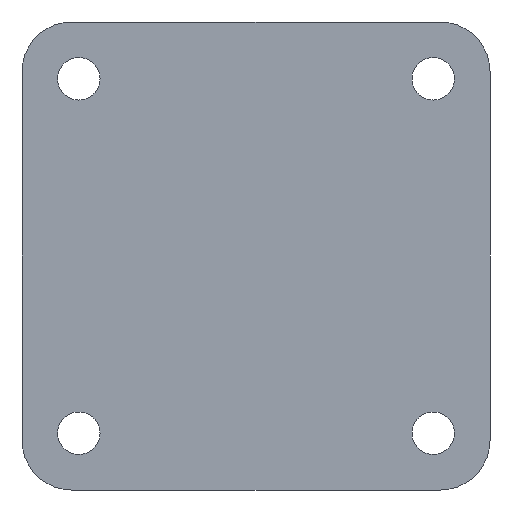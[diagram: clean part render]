
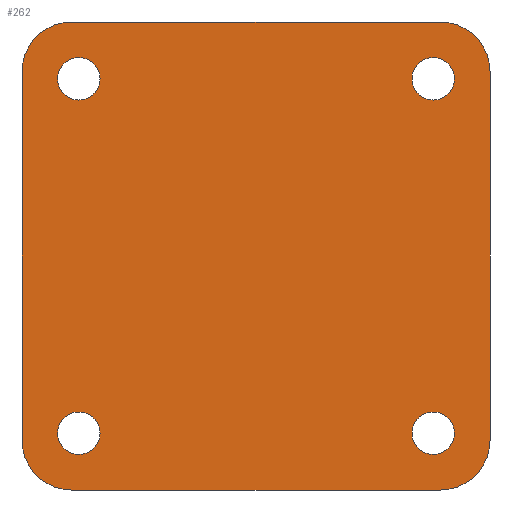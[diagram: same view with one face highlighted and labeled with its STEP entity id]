
A CAD part, left-side view. The second image highlights one B-rep face of the part: STEP entity #262.
In plain terms, the highlighted planar face has unit normal (-1, 0, 0).
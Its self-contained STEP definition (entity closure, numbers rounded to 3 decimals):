
#20=PLANE('',#294);
#25=LINE('',#408,#41);
#29=LINE('',#420,#45);
#33=LINE('',#432,#49);
#36=LINE('',#441,#52);
#41=VECTOR('',#333,10.);
#45=VECTOR('',#345,10.);
#49=VECTOR('',#357,10.);
#52=VECTOR('',#368,10.);
#61=FACE_BOUND('',#101,.T.);
#62=FACE_BOUND('',#102,.T.);
#63=FACE_BOUND('',#103,.T.);
#64=FACE_BOUND('',#104,.T.);
#78=FACE_OUTER_BOUND('',#100,.T.);
#100=EDGE_LOOP('',(#229,#230,#231,#232,#233,#234,#235,#236));
#101=EDGE_LOOP('',(#237));
#102=EDGE_LOOP('',(#238));
#103=EDGE_LOOP('',(#239));
#104=EDGE_LOOP('',(#240));
#106=CIRCLE('',#267,3.);
#108=CIRCLE('',#270,3.);
#110=CIRCLE('',#273,3.);
#112=CIRCLE('',#276,3.);
#114=CIRCLE('',#279,7.);
#116=CIRCLE('',#283,7.);
#118=CIRCLE('',#287,7.);
#120=CIRCLE('',#291,7.);
#122=VERTEX_POINT('',#377);
#124=VERTEX_POINT('',#382);
#126=VERTEX_POINT('',#387);
#128=VERTEX_POINT('',#392);
#131=VERTEX_POINT('',#398);
#132=VERTEX_POINT('',#400);
#134=VERTEX_POINT('',#406);
#136=VERTEX_POINT('',#412);
#138=VERTEX_POINT('',#418);
#140=VERTEX_POINT('',#424);
#142=VERTEX_POINT('',#430);
#144=VERTEX_POINT('',#436);
#146=EDGE_CURVE('',#122,#122,#106,.T.);
#148=EDGE_CURVE('',#124,#124,#108,.T.);
#150=EDGE_CURVE('',#126,#126,#110,.T.);
#152=EDGE_CURVE('',#128,#128,#112,.T.);
#155=EDGE_CURVE('',#132,#131,#114,.T.);
#159=EDGE_CURVE('',#131,#134,#25,.T.);
#162=EDGE_CURVE('',#134,#136,#116,.T.);
#165=EDGE_CURVE('',#136,#138,#29,.T.);
#168=EDGE_CURVE('',#138,#140,#118,.T.);
#171=EDGE_CURVE('',#140,#142,#33,.T.);
#174=EDGE_CURVE('',#142,#144,#120,.T.);
#176=EDGE_CURVE('',#144,#132,#36,.T.);
#229=ORIENTED_EDGE('',*,*,#176,.T.);
#230=ORIENTED_EDGE('',*,*,#155,.T.);
#231=ORIENTED_EDGE('',*,*,#159,.T.);
#232=ORIENTED_EDGE('',*,*,#162,.T.);
#233=ORIENTED_EDGE('',*,*,#165,.T.);
#234=ORIENTED_EDGE('',*,*,#168,.T.);
#235=ORIENTED_EDGE('',*,*,#171,.T.);
#236=ORIENTED_EDGE('',*,*,#174,.T.);
#237=ORIENTED_EDGE('',*,*,#146,.T.);
#238=ORIENTED_EDGE('',*,*,#148,.T.);
#239=ORIENTED_EDGE('',*,*,#150,.T.);
#240=ORIENTED_EDGE('',*,*,#152,.T.);
#262=ADVANCED_FACE('',(#78,#61,#62,#63,#64),#20,.F.);
#267=AXIS2_PLACEMENT_3D('',#378,#301,#302);
#270=AXIS2_PLACEMENT_3D('',#383,#307,#308);
#273=AXIS2_PLACEMENT_3D('',#388,#313,#314);
#276=AXIS2_PLACEMENT_3D('',#393,#319,#320);
#279=AXIS2_PLACEMENT_3D('',#401,#326,#327);
#283=AXIS2_PLACEMENT_3D('',#414,#339,#340);
#287=AXIS2_PLACEMENT_3D('',#426,#351,#352);
#291=AXIS2_PLACEMENT_3D('',#438,#363,#364);
#294=AXIS2_PLACEMENT_3D('',#443,#371,#372);
#301=DIRECTION('center_axis',(1.,0.,0.));
#302=DIRECTION('ref_axis',(0.,-1.,0.));
#307=DIRECTION('center_axis',(1.,0.,0.));
#308=DIRECTION('ref_axis',(0.,-1.,0.));
#313=DIRECTION('center_axis',(1.,0.,0.));
#314=DIRECTION('ref_axis',(0.,-1.,0.));
#319=DIRECTION('center_axis',(1.,0.,0.));
#320=DIRECTION('ref_axis',(0.,-1.,0.));
#326=DIRECTION('center_axis',(-1.,0.,0.));
#327=DIRECTION('ref_axis',(0.,0.,1.));
#333=DIRECTION('',(0.,-1.,0.));
#339=DIRECTION('center_axis',(-1.,0.,0.));
#340=DIRECTION('ref_axis',(0.,1.,0.));
#345=DIRECTION('',(0.,0.,1.));
#351=DIRECTION('center_axis',(-1.,0.,0.));
#352=DIRECTION('ref_axis',(0.,0.,-1.));
#357=DIRECTION('',(0.,1.,0.));
#363=DIRECTION('center_axis',(-1.,0.,0.));
#364=DIRECTION('ref_axis',(0.,-1.,0.));
#368=DIRECTION('',(0.,0.,-1.));
#371=DIRECTION('center_axis',(1.,0.,0.));
#372=DIRECTION('ref_axis',(0.,0.,-1.));
#377=CARTESIAN_POINT('',(0.,28.,-25.));
#378=CARTESIAN_POINT('Origin',(0.,25.,-25.));
#382=CARTESIAN_POINT('',(0.,-22.,-25.));
#383=CARTESIAN_POINT('Origin',(0.,-25.,-25.));
#387=CARTESIAN_POINT('',(0.,-22.,25.));
#388=CARTESIAN_POINT('Origin',(0.,-25.,25.));
#392=CARTESIAN_POINT('',(0.,28.,25.));
#393=CARTESIAN_POINT('Origin',(0.,25.,25.));
#398=CARTESIAN_POINT('',(0.,26.,-33.));
#400=CARTESIAN_POINT('',(0.,33.,-26.));
#401=CARTESIAN_POINT('Origin',(0.,26.,-26.));
#406=CARTESIAN_POINT('',(0.,-26.,-33.));
#408=CARTESIAN_POINT('',(0.,26.,-33.));
#412=CARTESIAN_POINT('',(0.,-33.,-26.));
#414=CARTESIAN_POINT('Origin',(0.,-26.,-26.));
#418=CARTESIAN_POINT('',(0.,-33.,26.));
#420=CARTESIAN_POINT('',(0.,-33.,-26.));
#424=CARTESIAN_POINT('',(0.,-26.,33.));
#426=CARTESIAN_POINT('Origin',(0.,-26.,26.));
#430=CARTESIAN_POINT('',(0.,26.,33.));
#432=CARTESIAN_POINT('',(0.,-26.,33.));
#436=CARTESIAN_POINT('',(0.,33.,26.));
#438=CARTESIAN_POINT('Origin',(0.,26.,26.));
#441=CARTESIAN_POINT('',(0.,33.,26.));
#443=CARTESIAN_POINT('Origin',(0.,0.,0.));
